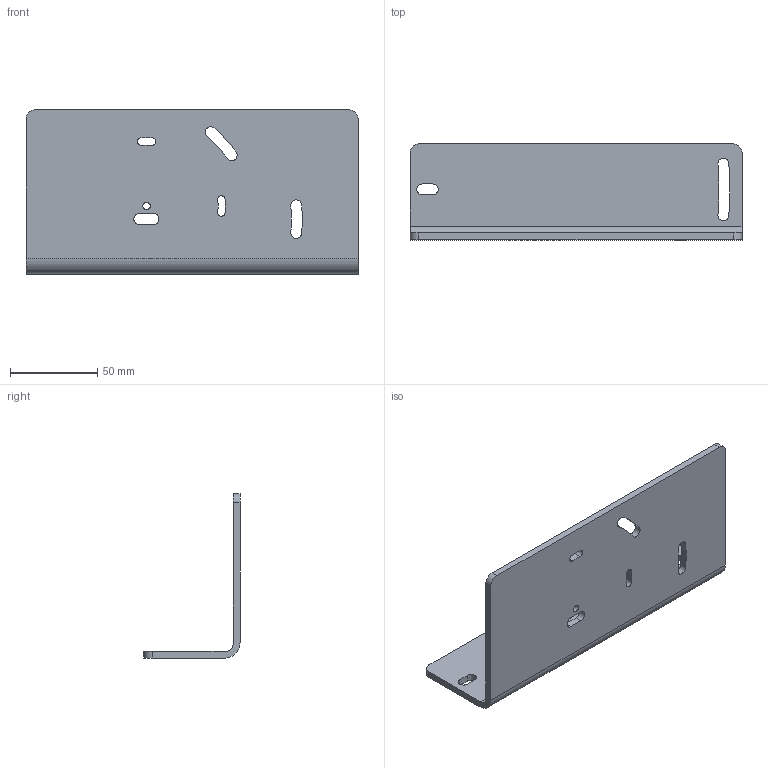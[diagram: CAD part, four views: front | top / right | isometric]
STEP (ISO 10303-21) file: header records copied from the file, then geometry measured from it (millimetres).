
FILE_DESCRIPTION(/* description */ ('Alibre Inc.'),/* implementation_level */ '2;1');
FILE_NAME(/* name */ 'export0',/* time_stamp */ '2014-03-04T10:30:42+01:00',/* author */ (''),/* organization */ (''),/* preprocessor_version */ 'ST-DEVELOPER v14',/* originating_system */ 'Alibre',/* authorisation */ '');
FILE_SCHEMA (('CONFIG_CONTROL_DESIGN'));
Length unit declared in the file: centimetre
Products named in the file (1): ID_1
Bounding box: 190 x 55 x 94 mm (x, y, z)
Volume: 104538.9 mm3; surface area: 56430.8 mm2
Topology: 1 solids, 1 shells, 43 faces, 123 edges, 82 vertices
Faces by surface type: cylinder 31, plane 12
Full cylindrical faces by diameter (mm): 4.2 x1
Entity records: 1539 total; most frequent: DIRECTION 258, CARTESIAN_POINT 247, ORIENTED_EDGE 244, EDGE_CURVE 122, AXIS2_PLACEMENT_3D 105, VERTEX_POINT 82, CIRCLE 62, VECTOR 60
